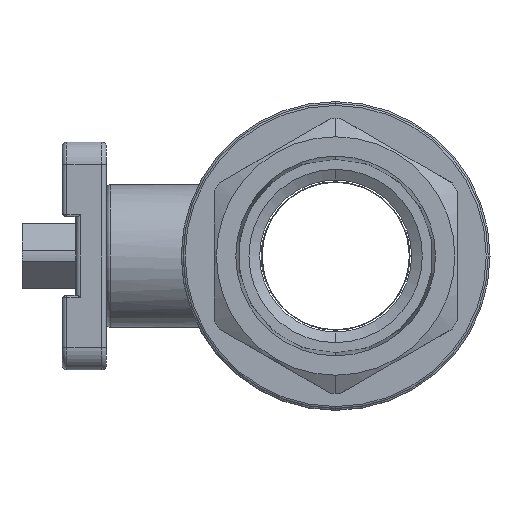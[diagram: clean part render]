
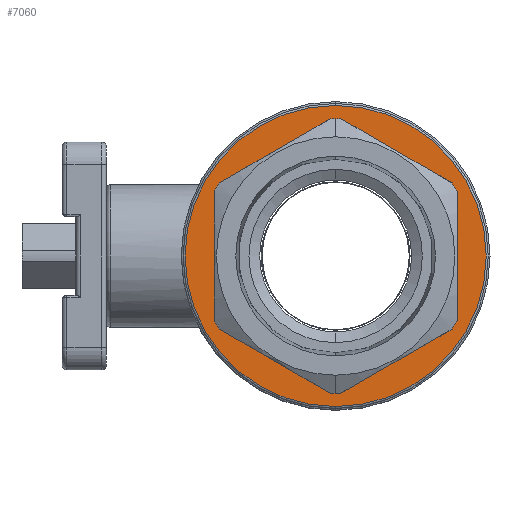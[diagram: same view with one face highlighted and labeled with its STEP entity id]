
A CAD part, left-side view. The second image highlights one B-rep face of the part: STEP entity #7060.
In plain terms, the highlighted planar face has unit normal (-1, 0, 0).
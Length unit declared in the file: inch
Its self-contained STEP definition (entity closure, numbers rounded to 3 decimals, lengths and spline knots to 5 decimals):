
#7 = VERTEX_POINT ( 'NONE', #9367 ) ;
#366 = AXIS2_PLACEMENT_3D ( 'NONE', #6767, #14966, #7951 ) ;
#736 = VERTEX_POINT ( 'NONE', #6707 ) ;
#737 = ORIENTED_EDGE ( 'NONE', *, *, #7800, .F. ) ;
#835 = DIRECTION ( 'NONE',  ( 0., 0., 1. ) ) ;
#911 = ORIENTED_EDGE ( 'NONE', *, *, #11889, .F. ) ;
#948 = VERTEX_POINT ( 'NONE', #7771 ) ;
#1046 = DIRECTION ( 'NONE',  ( 0., 0., 1. ) ) ;
#1162 = DIRECTION ( 'NONE',  ( 0., 0., 1. ) ) ;
#1175 = EDGE_CURVE ( 'NONE', #8775, #13150, #1918, .T. ) ;
#1179 = VECTOR ( 'NONE', #11931, 39.37008 ) ;
#1315 = CARTESIAN_POINT ( 'NONE',  ( -1.0496, 0.8, -0.46188 ) ) ;
#1436 = EDGE_CURVE ( 'NONE', #15027, #12958, #1733, .T. ) ;
#1458 = ORIENTED_EDGE ( 'NONE', *, *, #9994, .F. ) ;
#1624 = CARTESIAN_POINT ( 'NONE',  ( -1.0496, 0.03357, -0.90438 ) ) ;
#1639 = ORIENTED_EDGE ( 'NONE', *, *, #3428, .F. ) ;
#1727 = CARTESIAN_POINT ( 'NONE',  ( -1.0496, 0., -0.99132 ) ) ;
#1733 = LINE ( 'NONE', #1315, #10670 ) ;
#1918 = LINE ( 'NONE', #9607, #1179 ) ;
#1992 = AXIS2_PLACEMENT_3D ( 'NONE', #4063, #12243, #5220 ) ;
#2026 = CARTESIAN_POINT ( 'NONE',  ( -1.0496, -0.8, -0.46188 ) ) ;
#2062 = DIRECTION ( 'NONE',  ( -1., 0., 0. ) ) ;
#2349 = EDGE_CURVE ( 'NONE', #948, #14628, #11887, .T. ) ;
#2467 = CARTESIAN_POINT ( 'NONE',  ( -1.0496, 0., 0.905 ) ) ;
#2729 = ORIENTED_EDGE ( 'NONE', *, *, #14975, .F. ) ;
#2920 = DIRECTION ( 'NONE',  ( 0., 0., -1. ) ) ;
#3109 = ORIENTED_EDGE ( 'NONE', *, *, #1436, .F. ) ;
#3241 = AXIS2_PLACEMENT_3D ( 'NONE', #9045, #2062, #10237 ) ;
#3428 = EDGE_CURVE ( 'NONE', #736, #3857, #10946, .T. ) ;
#3466 = ORIENTED_EDGE ( 'NONE', *, *, #8133, .F. ) ;
#3514 = LINE ( 'NONE', #2026, #9346 ) ;
#3537 = VERTEX_POINT ( 'NONE', #10616 ) ;
#3567 = CARTESIAN_POINT ( 'NONE',  ( -1.0496, 0.99132, 0. ) ) ;
#3857 = VERTEX_POINT ( 'NONE', #10357 ) ;
#4063 = CARTESIAN_POINT ( 'NONE',  ( -1.0496, 0., 0. ) ) ;
#4122 = CIRCLE ( 'NONE', #366, 0.905 ) ;
#4279 = DIRECTION ( 'NONE',  ( -1., 0., 0. ) ) ;
#4424 = EDGE_CURVE ( 'NONE', #13150, #4573, #11843, .T. ) ;
#4453 = CARTESIAN_POINT ( 'NONE',  ( -1.0496, 0.76643, -0.48126 ) ) ;
#4496 = EDGE_CURVE ( 'NONE', #11036, #7530, #8343, .T. ) ;
#4563 = ORIENTED_EDGE ( 'NONE', *, *, #5909, .F. ) ;
#4573 = VERTEX_POINT ( 'NONE', #2467 ) ;
#4589 = CARTESIAN_POINT ( 'NONE',  ( -1.0496, 0., -0.92376 ) ) ;
#4732 = ORIENTED_EDGE ( 'NONE', *, *, #12629, .F. ) ;
#4786 = DIRECTION ( 'NONE',  ( 1., 0., 0. ) ) ;
#4918 = ORIENTED_EDGE ( 'NONE', *, *, #1175, .F. ) ;
#5010 = FACE_BOUND ( 'NONE', #13543, .T. ) ;
#5220 = DIRECTION ( 'NONE',  ( 0., 0., 1. ) ) ;
#5575 = DIRECTION ( 'NONE',  ( -1., 0., 0. ) ) ;
#5759 = AXIS2_PLACEMENT_3D ( 'NONE', #15062, #8028, #1046 ) ;
#5769 = CARTESIAN_POINT ( 'NONE',  ( -1.0496, 0., 0. ) ) ;
#5909 = EDGE_CURVE ( 'NONE', #11928, #8775, #8473, .T. ) ;
#6071 = LINE ( 'NONE', #4589, #15070 ) ;
#6186 = CARTESIAN_POINT ( 'NONE',  ( -1.0496, 0., 0.99132 ) ) ;
#6433 = CIRCLE ( 'NONE', #10930, 0.905 ) ;
#6707 = CARTESIAN_POINT ( 'NONE',  ( -1.0496, 0.03357, 0.90438 ) ) ;
#6747 = ORIENTED_EDGE ( 'NONE', *, *, #14275, .T. ) ;
#6767 = CARTESIAN_POINT ( 'NONE',  ( -1.0496, 0., 0. ) ) ;
#6848 = CIRCLE ( 'NONE', #10483, 0.905 ) ;
#6960 = DIRECTION ( 'NONE',  ( 0., 0., 1. ) ) ;
#7060 = ADVANCED_FACE ( 'NONE', ( #5010, #10871 ), #11798, .F. ) ;
#7158 = LINE ( 'NONE', #9926, #13035 ) ;
#7530 = VERTEX_POINT ( 'NONE', #1727 ) ;
#7771 = CARTESIAN_POINT ( 'NONE',  ( -1.0496, -0.76643, -0.48126 ) ) ;
#7800 = EDGE_CURVE ( 'NONE', #12008, #948, #6071, .T. ) ;
#7820 = DIRECTION ( 'NONE',  ( -1., 0., 0. ) ) ;
#7843 = DIRECTION ( 'NONE',  ( 0., 0., 1. ) ) ;
#7845 = VECTOR ( 'NONE', #15092, 39.37008 ) ;
#7951 = DIRECTION ( 'NONE',  ( 0., 0., 1. ) ) ;
#7995 = EDGE_LOOP ( 'NONE', ( #12980, #6747 ) ) ;
#8028 = DIRECTION ( 'NONE',  ( -1., 0., 0. ) ) ;
#8133 = EDGE_CURVE ( 'NONE', #12958, #12008, #4122, .T. ) ;
#8134 = DIRECTION ( 'NONE',  ( -1., 0., 0. ) ) ;
#8343 = CIRCLE ( 'NONE', #10485, 0.99132 ) ;
#8473 = CIRCLE ( 'NONE', #1992, 0.905 ) ;
#8775 = VERTEX_POINT ( 'NONE', #11037 ) ;
#8932 = AXIS2_PLACEMENT_3D ( 'NONE', #3567, #4786, #12981 ) ;
#9045 = CARTESIAN_POINT ( 'NONE',  ( -1.0496, 0., 0. ) ) ;
#9150 = AXIS2_PLACEMENT_3D ( 'NONE', #15169, #8134, #1162 ) ;
#9346 = VECTOR ( 'NONE', #7843, 39.37008 ) ;
#9351 = CARTESIAN_POINT ( 'NONE',  ( -1.0496, -0.03357, 0.90438 ) ) ;
#9367 = CARTESIAN_POINT ( 'NONE',  ( -1.0496, 0.8, 0.42311 ) ) ;
#9607 = CARTESIAN_POINT ( 'NONE',  ( -1.0496, -0.8, 0.46188 ) ) ;
#9926 = CARTESIAN_POINT ( 'NONE',  ( -1.0496, 0.8, 0.46188 ) ) ;
#9994 = EDGE_CURVE ( 'NONE', #14628, #11928, #3514, .T. ) ;
#10237 = DIRECTION ( 'NONE',  ( 0., 0., 1. ) ) ;
#10239 = DIRECTION ( 'NONE',  ( 0., -0.866, -0.5 ) ) ;
#10357 = CARTESIAN_POINT ( 'NONE',  ( -1.0496, 0.76643, 0.48126 ) ) ;
#10364 = EDGE_CURVE ( 'NONE', #7, #3537, #7158, .T. ) ;
#10412 = ORIENTED_EDGE ( 'NONE', *, *, #2349, .F. ) ;
#10483 = AXIS2_PLACEMENT_3D ( 'NONE', #11279, #4279, #12466 ) ;
#10485 = AXIS2_PLACEMENT_3D ( 'NONE', #5769, #13989, #6960 ) ;
#10566 = CARTESIAN_POINT ( 'NONE',  ( -1.0496, -0.8, 0.42311 ) ) ;
#10616 = CARTESIAN_POINT ( 'NONE',  ( -1.0496, 0.8, -0.42311 ) ) ;
#10670 = VECTOR ( 'NONE', #10239, 39.37008 ) ;
#10871 = FACE_OUTER_BOUND ( 'NONE', #7995, .T. ) ;
#10930 = AXIS2_PLACEMENT_3D ( 'NONE', #14848, #7820, #835 ) ;
#10946 = LINE ( 'NONE', #14990, #7845 ) ;
#11036 = VERTEX_POINT ( 'NONE', #6186 ) ;
#11037 = CARTESIAN_POINT ( 'NONE',  ( -1.0496, -0.76643, 0.48126 ) ) ;
#11156 = ORIENTED_EDGE ( 'NONE', *, *, #4424, .F. ) ;
#11214 = CIRCLE ( 'NONE', #9150, 0.99132 ) ;
#11279 = CARTESIAN_POINT ( 'NONE',  ( -1.0496, 0., 0. ) ) ;
#11681 = ORIENTED_EDGE ( 'NONE', *, *, #10364, .F. ) ;
#11798 = PLANE ( 'NONE',  #8932 ) ;
#11843 = CIRCLE ( 'NONE', #5759, 0.905 ) ;
#11887 = CIRCLE ( 'NONE', #14640, 0.905 ) ;
#11889 = EDGE_CURVE ( 'NONE', #4573, #736, #12641, .T. ) ;
#11928 = VERTEX_POINT ( 'NONE', #10566 ) ;
#11931 = DIRECTION ( 'NONE',  ( 0., 0.866, 0.5 ) ) ;
#12008 = VERTEX_POINT ( 'NONE', #13045 ) ;
#12243 = DIRECTION ( 'NONE',  ( -1., 0., 0. ) ) ;
#12293 = CARTESIAN_POINT ( 'NONE',  ( -1.0496, -0.8, -0.42311 ) ) ;
#12466 = DIRECTION ( 'NONE',  ( 0., 0., 1. ) ) ;
#12611 = CARTESIAN_POINT ( 'NONE',  ( -1.0496, 0., 0. ) ) ;
#12629 = EDGE_CURVE ( 'NONE', #3857, #7, #6848, .T. ) ;
#12641 = CIRCLE ( 'NONE', #3241, 0.905 ) ;
#12958 = VERTEX_POINT ( 'NONE', #1624 ) ;
#12980 = ORIENTED_EDGE ( 'NONE', *, *, #4496, .T. ) ;
#12981 = DIRECTION ( 'NONE',  ( 0., 0., -1. ) ) ;
#13035 = VECTOR ( 'NONE', #2920, 39.37008 ) ;
#13045 = CARTESIAN_POINT ( 'NONE',  ( -1.0496, -0.03357, -0.90438 ) ) ;
#13150 = VERTEX_POINT ( 'NONE', #9351 ) ;
#13543 = EDGE_LOOP ( 'NONE', ( #11156, #4918, #4563, #1458, #10412, #737, #3466, #3109, #2729, #11681, #4732, #1639, #911 ) ) ;
#13795 = DIRECTION ( 'NONE',  ( 0., 0., 1. ) ) ;
#13989 = DIRECTION ( 'NONE',  ( -1., 0., 0. ) ) ;
#14275 = EDGE_CURVE ( 'NONE', #7530, #11036, #11214, .T. ) ;
#14628 = VERTEX_POINT ( 'NONE', #12293 ) ;
#14640 = AXIS2_PLACEMENT_3D ( 'NONE', #12611, #5575, #13795 ) ;
#14848 = CARTESIAN_POINT ( 'NONE',  ( -1.0496, 0., 0. ) ) ;
#14852 = DIRECTION ( 'NONE',  ( 0., -0.866, 0.5 ) ) ;
#14966 = DIRECTION ( 'NONE',  ( -1., 0., 0. ) ) ;
#14975 = EDGE_CURVE ( 'NONE', #3537, #15027, #6433, .T. ) ;
#14990 = CARTESIAN_POINT ( 'NONE',  ( -1.0496, 0., 0.92376 ) ) ;
#15027 = VERTEX_POINT ( 'NONE', #4453 ) ;
#15062 = CARTESIAN_POINT ( 'NONE',  ( -1.0496, 0., 0. ) ) ;
#15070 = VECTOR ( 'NONE', #14852, 39.37008 ) ;
#15092 = DIRECTION ( 'NONE',  ( 0., 0.866, -0.5 ) ) ;
#15169 = CARTESIAN_POINT ( 'NONE',  ( -1.0496, 0., 0. ) ) ;
